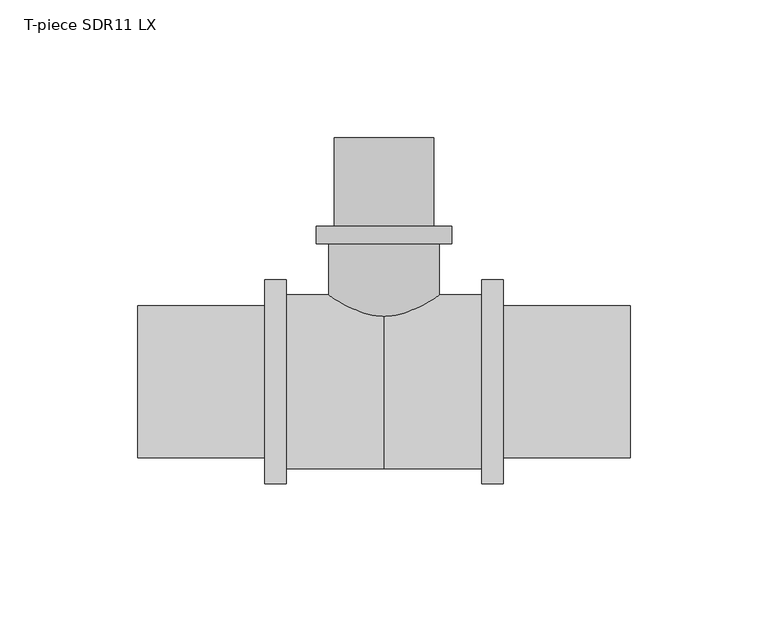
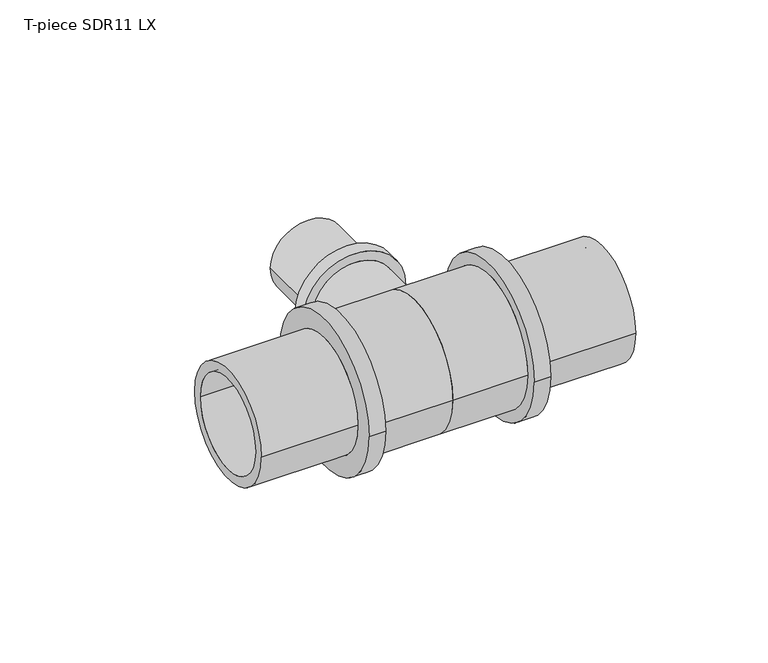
"""IFC4 building model written with IfcOpenShell, lengths in millimetres: pipe fitting geometry, T-piece SDR11 LX : T-piece LX SDR11 LX."""

import ifcopenshell
import ifcopenshell.guid

model = None  # the IFC model being written
_history = None  # IfcOwnerHistory: only IFC2X3 demands one
_inside = {}  # id of a spatial element -> (the spatial element, [elements in it])
_under = {}  # id of a project, library or spatial element -> (it, [spatial elements below it])
_declared = {}  # id of a project -> (the project, [libraries it declares])
_typed = {}  # id of a type object -> (the type object, [elements of that type])
_made_of = {}  # id of a material, layer set ... -> (it, [elements and type objects made of it])


def new_model(schema):
    """Start an empty IFC model of exactly this schema.

    Asked for "IFC4X3", IfcOpenShell would pick the latest addendum, in which some entities
    have other attributes; the version numbers below select the first issue.
    IFC2X3 requires an IfcOwnerHistory on every rooted entity: one is made here for all.
    """
    global model, _history
    if schema == "IFC4X3":
        model = ifcopenshell.file(schema_version=(4, 3, 0, 0))
    else:
        model = ifcopenshell.file(schema=schema)
    _inside.clear()
    _under.clear()
    _declared.clear()
    _typed.clear()
    _made_of.clear()
    _history = None
    if model.schema == "IFC2X3":
        org = make("IfcOrganization", Name="unknown")
        user = make(
            "IfcPersonAndOrganization",
            ThePerson=make("IfcPerson", FamilyName="unknown"),
            TheOrganization=org,
        )
        app = make(
            "IfcApplication",
            ApplicationDeveloper=org,
            Version="unknown",
            ApplicationFullName="unknown",
            ApplicationIdentifier="unknown",
        )
        _history = make(
            "IfcOwnerHistory",
            OwningUser=user,
            OwningApplication=app,
            ChangeAction="ADDED",
            CreationDate=0,
        )
    return model


def make(cls, **values):
    """One entity of the class cls with the attributes given. An attribute that is None is left unset."""
    return model.create_entity(
        cls, **{name: value for name, value in values.items() if value is not None}
    )


def rooted(cls, **values):
    """An entity with a GlobalId (a new one), such as an element, a storey or a relation."""
    return make(cls, GlobalId=ifcopenshell.guid.new(), OwnerHistory=_history, **values)


def si_unit(unit_type, name, prefix=None):
    """IfcSIUnit, for example si_unit("LENGTHUNIT", "METRE", prefix="MILLI")."""
    return make("IfcSIUnit", UnitType=unit_type, Prefix=prefix, Name=name)


def assignment(units):
    """IfcUnitAssignment: the units of a project."""
    return None if units is None else make("IfcUnitAssignment", Units=units)


def point(xyz):
    """IfcCartesianPoint."""
    return None if xyz is None else make("IfcCartesianPoint", Coordinates=xyz)


def direction(xyz):
    """IfcDirection."""
    return None if xyz is None else make("IfcDirection", DirectionRatios=xyz)


def frame(location, z_axis=None, x_axis=None):
    """IfcAxis2Placement3D, a coordinate frame: its origin and axes. An axis left out is left unset."""
    return make(
        "IfcAxis2Placement3D",
        Location=point(location),
        Axis=direction(z_axis),
        RefDirection=direction(x_axis),
    )


def origin():
    """The frame at (0, 0, 0) with its axes left unset."""
    return frame((0.0, 0.0, 0.0))


def place(relative_to, where):
    """IfcLocalPlacement: puts the frame where relative to a parent placement (None: the world)."""
    return make(
        "IfcLocalPlacement", PlacementRelTo=relative_to, RelativePlacement=where
    )


def context(
    kind, dimensions, precision=None, world=None, true_north=None, identifier=None
):
    """IfcGeometricRepresentationContext, for example the 3D "Model" context."""
    return make(
        "IfcGeometricRepresentationContext",
        ContextIdentifier=identifier,
        ContextType=kind,
        CoordinateSpaceDimension=dimensions,
        Precision=precision,
        WorldCoordinateSystem=world,
        TrueNorth=true_north,
    )


def project(units=None, contexts=None):
    """IfcProject with its units and contexts."""
    return rooted(
        "IfcProject",
        Name="project",
        RepresentationContexts=contexts,
        UnitsInContext=assignment(units),
    )


def spatial(cls, under=None, at=None, **own):
    """A site, building, storey or space (cls), placed at a placement, below another one or the project."""
    s = rooted(cls, ObjectPlacement=at, **own)
    if under is not None:
        _under.setdefault(under.id(), (under, []))[1].append(s)
    return s


def polyline(points):
    """IfcPolyline through the points."""
    return make("IfcPolyline", Points=[point(p) for p in points])


def circle_curve(where, radius):
    """IfcCircle in the frame where."""
    return make("IfcCircle", Position=where, Radius=radius)


def ellipse_curve(where, semi_axis1, semi_axis2):
    """IfcEllipse in the frame where."""
    return make(
        "IfcEllipse", Position=where, SemiAxis1=semi_axis1, SemiAxis2=semi_axis2
    )


def trimmed(basis, trim1, trim2, sense, master):
    """IfcTrimmedCurve: the piece of a basis curve between two trims."""
    return make(
        "IfcTrimmedCurve",
        BasisCurve=basis,
        Trim1=trim1,
        Trim2=trim2,
        SenseAgreement=sense,
        MasterRepresentation=master,
    )


def shape(context_of_items, identifier, shape_type, items):
    """IfcShapeRepresentation: the items that make up one representation, for example the "Body"."""
    return make(
        "IfcShapeRepresentation",
        ContextOfItems=context_of_items,
        RepresentationIdentifier=identifier,
        RepresentationType=shape_type,
        Items=items,
    )


def source(mapping_origin, context_of_items, identifier, shape_type, items):
    """IfcRepresentationMap: a shape defined once, which mapped items show again and again."""
    return make(
        "IfcRepresentationMap",
        MappingOrigin=mapping_origin,
        MappedRepresentation=shape(context_of_items, identifier, shape_type, items),
    )


def transform(
    local_origin,
    x_axis=None,
    y_axis=None,
    z_axis=None,
    scale=None,
    scale2=None,
    scale3=None,
    uniform=True,
):
    """IfcCartesianTransformationOperator3D, or its non-uniform kind. x_axis, y_axis, z_axis: its Axis1, 2, 3."""
    if uniform:
        return make(
            "IfcCartesianTransformationOperator3D",
            Axis1=direction(x_axis),
            Axis2=direction(y_axis),
            LocalOrigin=point(local_origin),
            Scale=scale,
            Axis3=direction(z_axis),
        )
    return make(
        "IfcCartesianTransformationOperator3DnonUniform",
        Axis1=direction(x_axis),
        Axis2=direction(y_axis),
        LocalOrigin=point(local_origin),
        Scale=scale,
        Axis3=direction(z_axis),
        Scale2=scale2,
        Scale3=scale3,
    )


def mapped(mapping_source, mapping_target):
    """IfcMappedItem: shows the shape of a source again, moved by a transform."""
    return make(
        "IfcMappedItem", MappingSource=mapping_source, MappingTarget=mapping_target
    )


def made_of(thing, what):
    """Note that an element or type object is made of a material, layer set ...; save() writes the relation."""
    if what is not None:
        _made_of.setdefault(what.id(), (what, []))[1].append(thing)
    return thing


def element(
    cls,
    number,
    at=None,
    inside=None,
    cuts=None,
    type_object=None,
    material=None,
    context=None,
    identifier="Body",
    shape_type=None,
    held_by="IfcProductDefinitionShape",
    body=None,
    shapes=None,
    **own,
):
    """One element of the class cls, such as IfcWall. Its Tag is "e" and its number.

    at: its placement. inside: the storey or other place that contains it. cuts: it is an
    opening in that element (IfcRelVoidsElement). A single representation is given by context,
    identifier, shape_type and body (its items); several are given by shapes. held_by: the class
    of the entity that holds the representations. save() writes the other relations.
    """
    e = rooted(cls, Tag="e%d" % number, ObjectPlacement=at, **own)
    if body is not None:
        shapes = [shape(context, identifier, shape_type, body)]
    if shapes is not None:
        e.Representation = make(held_by, Representations=shapes)
    if inside is not None:
        _inside.setdefault(inside.id(), (inside, []))[1].append(e)
    if cuts is not None:
        rooted(
            "IfcRelVoidsElement", RelatingBuildingElement=cuts, RelatedOpeningElement=e
        )
    if type_object is not None:
        _typed.setdefault(type_object.id(), (type_object, []))[1].append(e)
    return made_of(e, material)


def aggregate(whole, parts):
    """IfcRelAggregates: a whole, such as a stair, and the parts it consists of."""
    return rooted("IfcRelAggregates", RelatingObject=whole, RelatedObjects=parts)


def save(model, path):
    """Write the relations noted so far, then the file.

    IfcRelAggregates (storeys below a building ...), IfcRelContainedInSpatialStructure (elements
    in a storey), IfcRelDefinesByType, IfcRelAssociatesMaterial and IfcRelDeclares: one each for
    every whole, place, type object, material and project.
    """
    for whole, parts in _under.values():
        aggregate(whole, parts)
    for where, things in _inside.values():
        rooted(
            "IfcRelContainedInSpatialStructure",
            RelatedElements=things,
            RelatingStructure=where,
        )
    for kind, things in _typed.values():
        rooted("IfcRelDefinesByType", RelatedObjects=things, RelatingType=kind)
    for what, things in _made_of.values():
        rooted("IfcRelAssociatesMaterial", RelatedObjects=things, RelatingMaterial=what)
    for by, libraries in _declared.values():
        rooted("IfcRelDeclares", RelatingContext=by, RelatedDefinitions=libraries)
    model.write(path)


def plane_surface(at):
    """IfcPlane: the flat surface through the origin of the frame at, square to its z axis."""
    return make("IfcPlane", Position=at)


def cylinder_surface(at, radius):
    """IfcCylindricalSurface: all points at the distance radius from the z axis of the frame at."""
    return make("IfcCylindricalSurface", Position=at, Radius=radius)


def revolved_surface(curve, axis_point, axis_direction):
    """IfcSurfaceOfRevolution: the curve turned about the line through axis_point along axis_direction."""
    return make(
        "IfcSurfaceOfRevolution",
        SweptCurve=make("IfcArbitraryOpenProfileDef", ProfileType="CURVE", Curve=curve),
        AxisPosition=make("IfcAxis1Placement", Location=point(axis_point), Axis=direction(axis_direction)),
    )


def advanced_brep(points, edges, surfaces, faces):
    """IfcAdvancedBrep: a solid bounded by faces that lie on surfaces and meet in shared edges.

    An edge is (start, end): straight between two places in points (the first is 0);
    or (start, end, curve); or (start, end, curve, False) where it runs against its curve.
    A face is (place in surfaces, loops), or (place, loops, False) where it looks against
    its surface's normal. A loop lists edges by number (the first is 1), with a minus sign
    where the edge is run from its end to its start. The first loop is the outer one.
    """
    corners = [point(p) for p in points]
    vertices = [make("IfcVertexPoint", VertexGeometry=c) for c in corners]
    made = []
    for start, end, *more in edges:
        made.append(
            make(
                "IfcEdgeCurve",
                EdgeStart=vertices[start],
                EdgeEnd=vertices[end],
                EdgeGeometry=more[0] if more else make("IfcPolyline", Points=[corners[start], corners[end]]),
                SameSense=more[1] if len(more) > 1 else True,
            )
        )
    hull = []
    for where, loops, *sense in faces:
        bounds = []
        for j, loop in enumerate(loops):
            ring = [make("IfcOrientedEdge", EdgeElement=made[abs(k) - 1], Orientation=k > 0) for k in loop]
            bounds.append(
                make(
                    "IfcFaceOuterBound" if j == 0 else "IfcFaceBound",
                    Bound=make("IfcEdgeLoop", EdgeList=ring),
                    Orientation=True,
                )
            )
        hull.append(make("IfcAdvancedFace", Bounds=bounds, FaceSurface=surfaces[where], SameSense=sense[0] if sense else True))
    return make("IfcAdvancedBrep", Outer=make("IfcClosedShell", CfsFaces=hull))


def t_piece_sdr11_lx_51ccf36a(model_context):
    return source(origin(), model_context, "Body", "AdvancedBrep", [
        advanced_brep(
        [(20.0, 1.6236803, 0.0), (-20.0, 1.6236803, 0.0), (-20.0, 50.0, 0.0), (20.0, 50.0, 0.0), (13.75, 88.5, 0.0), (-13.75, 88.5, 0.0), (-13.75, 0.0, 0.0), (13.75, 0.0, 0.0), (18.0, 56.5, 0.0), (-18.0, 56.5, 0.0), (-18.0, 88.5, 0.0), (18.0, 88.5, 0.0), (24.5, 50.0, 0.0), (-24.5, 50.0, 0.0), (-24.5, 56.5, 0.0), (24.5, 56.5, 0.0)],
        [
            (0, 1, circle_curve(frame((0.0, 1.6236803, 0.0), z_axis=(0.0, 1.0, 0.0), x_axis=(-1.0, 0.0, 0.0)), 20.0)),
            (1, 2),
            (2, 3, circle_curve(frame((0.0, 50.0, 0.0), z_axis=(0.0, -1.0, 0.0), x_axis=(-1.0, 0.0, 0.0)), 20.0)),
            (3, 0),
            (4, 5, circle_curve(frame((0.0, 88.5, 0.0), z_axis=(0.0, 1.0, 0.0), x_axis=(-1.0, 0.0, 0.0)), 13.75)),
            (5, 6),
            (6, 7, circle_curve(frame((0.0, 0.0, 0.0), z_axis=(0.0, -1.0, 0.0), x_axis=(-1.0, 0.0, 0.0)), 13.75)),
            (7, 4),
            (8, 9, circle_curve(frame((0.0, 56.5, 0.0), z_axis=(0.0, 1.0, 0.0), x_axis=(-1.0, 0.0, 0.0)), 18.0)),
            (9, 10),
            (10, 11, circle_curve(frame((0.0, 88.5, 0.0), z_axis=(0.0, -1.0, 0.0), x_axis=(-1.0, 0.0, 0.0)), 18.0)),
            (11, 8),
            (12, 13, circle_curve(frame((0.0, 50.0, 0.0), z_axis=(0.0, 1.0, 0.0), x_axis=(-1.0, 0.0, 0.0)), 24.5)),
            (13, 14),
            (14, 15, circle_curve(frame((0.0, 56.5, 0.0), z_axis=(0.0, -1.0, 0.0), x_axis=(-1.0, 0.0, 0.0)), 24.5)),
            (15, 12),
            (12, 13, circle_curve(frame((0.0, 50.0, 0.0), z_axis=(0.0, -1.0, 0.0), x_axis=(1.0, 0.0, 0.0)), 24.5)),
            (2, 3, circle_curve(frame((0.0, 50.0, 0.0), z_axis=(0.0, 1.0, 0.0), x_axis=(1.0, 0.0, 0.0)), 20.0)),
            (1, 0, circle_curve(frame((0.0, 1.6236803, 0.0), z_axis=(0.0, 1.0, 0.0), x_axis=(1.0, 0.0, 0.0)), 20.0)),
            (5, 4, circle_curve(frame((0.0, 88.5, 0.0), z_axis=(0.0, 1.0, 0.0), x_axis=(1.0, 0.0, 0.0)), 13.75)),
            (7, 6, circle_curve(frame((0.0, 0.0, 0.0), z_axis=(0.0, -1.0, 0.0), x_axis=(1.0, 0.0, 0.0)), 13.75)),
            (10, 11, circle_curve(frame((0.0, 88.5, 0.0), z_axis=(0.0, 1.0, 0.0), x_axis=(1.0, 0.0, 0.0)), 18.0)),
            (9, 8, circle_curve(frame((0.0, 56.5, 0.0), z_axis=(0.0, 1.0, 0.0), x_axis=(1.0, 0.0, 0.0)), 18.0)),
            (14, 15, circle_curve(frame((0.0, 56.5, 0.0), z_axis=(0.0, 1.0, 0.0), x_axis=(1.0, 0.0, 0.0)), 24.5)),
            (6, 1, circle_curve(frame((-8.9962802, 31.1392381, 0.0), z_axis=(0.0, 0.0, -1.0), x_axis=(0.0, -1.0, 0.0)), 31.5)),
            (0, 7, circle_curve(frame((8.9962802, 31.1392381, 0.0), z_axis=(0.0, 0.0, -1.0), x_axis=(0.0, -1.0, 0.0)), 31.5)),
        ],
        [
            cylinder_surface(frame((0.0, 0.0, 0.0), z_axis=(0.0, -1.0, 0.0), x_axis=(-1.0, 0.0, 0.0)), 20.0),
            revolved_surface(polyline([(-13.75, 0.0, 0.0), (-13.75, 88.5, 0.0)]), (0.0, 0.0, 0.0), (0.0, -1.0, 0.0)),
            cylinder_surface(frame((0.0, 0.0, 0.0), z_axis=(0.0, -1.0, 0.0), x_axis=(-1.0, 0.0, 0.0)), 18.0),
            cylinder_surface(frame((0.0, 0.0, 0.0), z_axis=(0.0, -1.0, 0.0), x_axis=(-1.0, 0.0, 0.0)), 24.5),
            plane_surface(frame((0.0, 50.0, 0.0), z_axis=(0.0, -1.0, 0.0), x_axis=(1.0, 0.0, 0.0))),
            cylinder_surface(frame((0.0, 0.0, 0.0), z_axis=(0.0, -1.0, 0.0), x_axis=(1.0, 0.0, 0.0)), 20.0),
            revolved_surface(polyline([(13.75, 0.0, 0.0), (13.75, 88.5, 0.0)]), (0.0, 0.0, 0.0), (0.0, -1.0, 0.0)),
            plane_surface(frame((0.0, 88.5, 0.0), z_axis=(0.0, 1.0, 0.0), x_axis=(1.0, 0.0, 0.0))),
            cylinder_surface(frame((0.0, 0.0, 0.0), z_axis=(0.0, -1.0, 0.0), x_axis=(1.0, 0.0, 0.0)), 18.0),
            plane_surface(frame((0.0, 56.5, 0.0), z_axis=(0.0, 1.0, 0.0), x_axis=(1.0, 0.0, 0.0))),
            cylinder_surface(frame((0.0, 0.0, 0.0), z_axis=(0.0, -1.0, 0.0), x_axis=(1.0, 0.0, 0.0)), 24.5),
            revolved_surface(trimmed(ellipse_curve(frame((-8.9962802, 31.1392381, 0.0), z_axis=(0.0, 0.0, 1.0), x_axis=(0.0, -1.0, 0.0)), 31.5, 31.5), [point((-20.0, 1.6236803, 0.0))], [point((-13.75, 0.0, 0.0))], True, "CARTESIAN"), (0.0, 0.0, 0.0), (0.0, -1.0, 0.0)),
            revolved_surface(trimmed(ellipse_curve(frame((8.9962802, 31.1392381, 0.0), z_axis=(0.0, 0.0, -1.0), x_axis=(0.0, -1.0, 0.0)), 31.5, 31.5), [point((20.0, 1.6236803, 0.0))], [point((13.75, 0.0, 0.0))], True, "CARTESIAN"), (0.0, 0.0, 0.0), (0.0, -1.0, 0.0)),
        ],
        [
            (0, [[1, 2, 3, 4]]),
            (1, [[5, 6, 7, 8]]),
            (2, [[9, 10, 11, 12]]),
            (3, [[13, 14, 15, 16]]),
            (4, [[17, -13], [18, -3]]),
            (5, [[19, -4, -18, -2]]),
            (6, [[20, -8, 21, -6]]),
            (7, [[22, -11], [-20, -5]]),
            (8, [[23, -12, -22, -10]]),
            (9, [[24, -15], [-23, -9]]),
            (10, [[-17, -16, -24, -14]]),
            (11, [[-7, 25, -1, 26]]),
            (12, [[-21, -26, -19, -25]]),
        ],
    ),
        advanced_brep(
        [(35.5, 31.5, 0.0), (35.5, -31.5, 0.0), (0.0, -31.5, 0.0), (0.0, 31.5, 0.0), (0.0, 22.75, 0.0), (0.0, -22.75, 0.0), (89.3, -22.75, 0.0), (89.3, 22.75, 0.0), (89.3, 27.55, 0.0), (89.3, -27.55, 0.0), (43.3, -27.55, 0.0), (43.3, 27.55, 0.0), (43.3, 37.0, 0.0), (43.3, -37.0, 0.0), (35.5, -37.0, 0.0), (35.5, 37.0, 0.0)],
        [
            (0, 1, circle_curve(frame((35.5, 0.0, 0.0), z_axis=(-1.0, 0.0, 0.0), x_axis=(0.0, -1.0, 0.0)), 31.5)),
            (1, 2),
            (2, 3, circle_curve(frame((0.0, 0.0, 0.0), z_axis=(1.0, 0.0, 0.0), x_axis=(0.0, -1.0, 0.0)), 31.5)),
            (3, 0),
            (4, 5, circle_curve(frame((0.0, 0.0, 0.0), z_axis=(-1.0, 0.0, 0.0), x_axis=(0.0, -1.0, 0.0)), 22.75)),
            (5, 6),
            (6, 7, circle_curve(frame((89.3, 0.0, 0.0), z_axis=(1.0, 0.0, 0.0), x_axis=(0.0, -1.0, 0.0)), 22.75)),
            (7, 4),
            (8, 9, circle_curve(frame((89.3, 0.0, 0.0), z_axis=(-1.0, 0.0, 0.0), x_axis=(0.0, -1.0, 0.0)), 27.55)),
            (9, 10),
            (10, 11, circle_curve(frame((43.3, 0.0, 0.0), z_axis=(1.0, 0.0, 0.0), x_axis=(0.0, -1.0, 0.0)), 27.55)),
            (11, 8),
            (12, 13, circle_curve(frame((43.3, 0.0, 0.0), z_axis=(-1.0, 0.0, 0.0), x_axis=(0.0, -1.0, 0.0)), 37.0)),
            (13, 14),
            (14, 15, circle_curve(frame((35.5, 0.0, 0.0), z_axis=(1.0, 0.0, 0.0), x_axis=(0.0, -1.0, 0.0)), 37.0)),
            (15, 12),
            (14, 15, circle_curve(frame((35.5, 0.0, 0.0), z_axis=(-1.0, 0.0, 0.0), x_axis=(0.0, 1.0, 0.0)), 37.0)),
            (0, 1, circle_curve(frame((35.5, 0.0, 0.0), z_axis=(1.0, 0.0, 0.0), x_axis=(0.0, 1.0, 0.0)), 31.5)),
            (3, 2, circle_curve(frame((0.0, 0.0, 0.0), z_axis=(1.0, 0.0, 0.0), x_axis=(0.0, 1.0, 0.0)), 31.5)),
            (4, 5, circle_curve(frame((0.0, 0.0, 0.0), z_axis=(1.0, 0.0, 0.0), x_axis=(0.0, 1.0, 0.0)), 22.75)),
            (7, 6, circle_curve(frame((89.3, 0.0, 0.0), z_axis=(1.0, 0.0, 0.0), x_axis=(0.0, 1.0, 0.0)), 22.75)),
            (8, 9, circle_curve(frame((89.3, 0.0, 0.0), z_axis=(1.0, 0.0, 0.0), x_axis=(0.0, 1.0, 0.0)), 27.55)),
            (11, 10, circle_curve(frame((43.3, 0.0, 0.0), z_axis=(1.0, 0.0, 0.0), x_axis=(0.0, 1.0, 0.0)), 27.55)),
            (12, 13, circle_curve(frame((43.3, 0.0, 0.0), z_axis=(1.0, 0.0, 0.0), x_axis=(0.0, 1.0, 0.0)), 37.0)),
        ],
        [
            cylinder_surface(frame((0.0, 0.0, 0.0), z_axis=(1.0, 0.0, 0.0), x_axis=(0.0, -1.0, 0.0)), 31.5),
            revolved_surface(polyline([(89.3, -22.75, 0.0), (0.0, -22.75, 0.0)]), (0.0, 0.0, 0.0), (1.0, 0.0, 0.0)),
            cylinder_surface(frame((0.0, 0.0, 0.0), z_axis=(1.0, 0.0, 0.0), x_axis=(0.0, -1.0, 0.0)), 27.55),
            cylinder_surface(frame((0.0, 0.0, 0.0), z_axis=(1.0, 0.0, 0.0), x_axis=(0.0, -1.0, 0.0)), 37.0),
            plane_surface(frame((35.5, 0.0, 0.0), z_axis=(-1.0, 0.0, 0.0), x_axis=(0.0, 1.0, 0.0))),
            cylinder_surface(frame((0.0, 0.0, 0.0), z_axis=(1.0, 0.0, 0.0), x_axis=(0.0, 1.0, 0.0)), 31.5),
            plane_surface(frame((0.0, 0.0, 0.0), z_axis=(-1.0, 0.0, 0.0), x_axis=(0.0, 1.0, 0.0))),
            revolved_surface(polyline([(89.3, 22.75, 0.0), (0.0, 22.75, 0.0)]), (0.0, 0.0, 0.0), (1.0, 0.0, 0.0)),
            plane_surface(frame((89.3, 0.0, 0.0), z_axis=(1.0, 0.0, 0.0), x_axis=(0.0, 1.0, 0.0))),
            cylinder_surface(frame((0.0, 0.0, 0.0), z_axis=(1.0, 0.0, 0.0), x_axis=(0.0, 1.0, 0.0)), 27.55),
            plane_surface(frame((43.3, 0.0, 0.0), z_axis=(1.0, 0.0, 0.0), x_axis=(0.0, 1.0, 0.0))),
            cylinder_surface(frame((0.0, 0.0, 0.0), z_axis=(1.0, 0.0, 0.0), x_axis=(0.0, 1.0, 0.0)), 37.0),
        ],
        [
            (0, [[1, 2, 3, 4]]),
            (1, [[5, 6, 7, 8]]),
            (2, [[9, 10, 11, 12]]),
            (3, [[13, 14, 15, 16]]),
            (4, [[17, -15], [18, -1]]),
            (5, [[-18, -4, 19, -2]]),
            (6, [[-19, -3], [20, -5]]),
            (7, [[-20, -8, 21, -6]]),
            (8, [[22, -9], [-21, -7]]),
            (9, [[-22, -12, 23, -10]]),
            (10, [[24, -13], [-23, -11]]),
            (11, [[-24, -16, -17, -14]]),
        ],
    ),
        advanced_brep(
        [(0.0, 31.5, 0.0), (0.0, -31.5, 0.0), (-35.5, -31.5, 0.0), (-35.5, 31.5, 0.0), (-89.3, 22.75, 0.0), (-89.3, -22.75, 0.0), (0.0, -22.75, 0.0), (0.0, 22.75, 0.0), (-43.3, 27.55, 0.0), (-43.3, -27.55, 0.0), (-89.3, -27.55, 0.0), (-89.3, 27.55, 0.0), (-35.5, 37.0, 0.0), (-35.5, -37.0, 0.0), (-43.3, -37.0, 0.0), (-43.3, 37.0, 0.0)],
        [
            (0, 1, circle_curve(frame((0.0, 0.0, 0.0), z_axis=(-1.0, 0.0, 0.0), x_axis=(0.0, -1.0, 0.0)), 31.5)),
            (1, 2),
            (2, 3, circle_curve(frame((-35.5, 0.0, 0.0), z_axis=(1.0, 0.0, 0.0), x_axis=(0.0, -1.0, 0.0)), 31.5)),
            (3, 0),
            (4, 5, circle_curve(frame((-89.3, 0.0, 0.0), z_axis=(-1.0, 0.0, 0.0), x_axis=(0.0, -1.0, 0.0)), 22.75)),
            (5, 6),
            (6, 7, circle_curve(frame((0.0, 0.0, 0.0), z_axis=(1.0, 0.0, 0.0), x_axis=(0.0, -1.0, 0.0)), 22.75)),
            (7, 4),
            (8, 9, circle_curve(frame((-43.3, 0.0, 0.0), z_axis=(-1.0, 0.0, 0.0), x_axis=(0.0, -1.0, 0.0)), 27.55)),
            (9, 10),
            (10, 11, circle_curve(frame((-89.3, 0.0, 0.0), z_axis=(1.0, 0.0, 0.0), x_axis=(0.0, -1.0, 0.0)), 27.55)),
            (11, 8),
            (12, 13, circle_curve(frame((-35.5, 0.0, 0.0), z_axis=(-1.0, 0.0, 0.0), x_axis=(0.0, -1.0, 0.0)), 37.0)),
            (13, 14),
            (14, 15, circle_curve(frame((-43.3, 0.0, 0.0), z_axis=(1.0, 0.0, 0.0), x_axis=(0.0, -1.0, 0.0)), 37.0)),
            (15, 12),
            (12, 13, circle_curve(frame((-35.5, 0.0, 0.0), z_axis=(1.0, 0.0, 0.0), x_axis=(0.0, 1.0, 0.0)), 37.0)),
            (2, 3, circle_curve(frame((-35.5, 0.0, 0.0), z_axis=(-1.0, 0.0, 0.0), x_axis=(0.0, 1.0, 0.0)), 31.5)),
            (1, 0, circle_curve(frame((0.0, 0.0, 0.0), z_axis=(-1.0, 0.0, 0.0), x_axis=(0.0, 1.0, 0.0)), 31.5)),
            (6, 7, circle_curve(frame((0.0, 0.0, 0.0), z_axis=(-1.0, 0.0, 0.0), x_axis=(0.0, 1.0, 0.0)), 22.75)),
            (5, 4, circle_curve(frame((-89.3, 0.0, 0.0), z_axis=(-1.0, 0.0, 0.0), x_axis=(0.0, 1.0, 0.0)), 22.75)),
            (10, 11, circle_curve(frame((-89.3, 0.0, 0.0), z_axis=(-1.0, 0.0, 0.0), x_axis=(0.0, 1.0, 0.0)), 27.55)),
            (9, 8, circle_curve(frame((-43.3, 0.0, 0.0), z_axis=(-1.0, 0.0, 0.0), x_axis=(0.0, 1.0, 0.0)), 27.55)),
            (14, 15, circle_curve(frame((-43.3, 0.0, 0.0), z_axis=(-1.0, 0.0, 0.0), x_axis=(0.0, 1.0, 0.0)), 37.0)),
        ],
        [
            cylinder_surface(frame((0.0, 0.0, 0.0), z_axis=(1.0, 0.0, 0.0), x_axis=(0.0, -1.0, 0.0)), 31.5),
            revolved_surface(polyline([(0.0, -22.75, 0.0), (-89.3, -22.75, 0.0)]), (0.0, 0.0, 0.0), (1.0, 0.0, 0.0)),
            cylinder_surface(frame((0.0, 0.0, 0.0), z_axis=(1.0, 0.0, 0.0), x_axis=(0.0, -1.0, 0.0)), 27.55),
            cylinder_surface(frame((0.0, 0.0, 0.0), z_axis=(1.0, 0.0, 0.0), x_axis=(0.0, -1.0, 0.0)), 37.0),
            plane_surface(frame((-35.5, 0.0, 0.0), z_axis=(1.0, 0.0, 0.0), x_axis=(0.0, 1.0, 0.0))),
            cylinder_surface(frame((0.0, 0.0, 0.0), z_axis=(1.0, 0.0, 0.0), x_axis=(0.0, 1.0, 0.0)), 31.5),
            plane_surface(frame((0.0, 0.0, 0.0), z_axis=(1.0, 0.0, 0.0), x_axis=(0.0, 1.0, 0.0))),
            revolved_surface(polyline([(0.0, 22.75, 0.0), (-89.3, 22.75, 0.0)]), (0.0, 0.0, 0.0), (1.0, 0.0, 0.0)),
            plane_surface(frame((-89.3, 0.0, 0.0), z_axis=(-1.0, 0.0, 0.0), x_axis=(0.0, 1.0, 0.0))),
            cylinder_surface(frame((0.0, 0.0, 0.0), z_axis=(1.0, 0.0, 0.0), x_axis=(0.0, 1.0, 0.0)), 27.55),
            plane_surface(frame((-43.3, 0.0, 0.0), z_axis=(-1.0, 0.0, 0.0), x_axis=(0.0, 1.0, 0.0))),
            cylinder_surface(frame((0.0, 0.0, 0.0), z_axis=(1.0, 0.0, 0.0), x_axis=(0.0, 1.0, 0.0)), 37.0),
        ],
        [
            (0, [[1, 2, 3, 4]]),
            (1, [[5, 6, 7, 8]]),
            (2, [[9, 10, 11, 12]]),
            (3, [[13, 14, 15, 16]]),
            (4, [[17, -13], [18, -3]]),
            (5, [[19, -4, -18, -2]]),
            (6, [[-19, -1], [20, -7]]),
            (7, [[21, -8, -20, -6]]),
            (8, [[22, -11], [-21, -5]]),
            (9, [[23, -12, -22, -10]]),
            (10, [[24, -15], [-23, -9]]),
            (11, [[-17, -16, -24, -14]]),
        ],
    ),
    ])


if __name__ == "__main__":
    model = new_model("IFC4")
    model_context = context("Model", 3, world=origin())
    ifc_project = project(units=[si_unit("LENGTHUNIT", "METRE", prefix="MILLI")], contexts=[model_context])
    site = spatial("IfcSite", under=ifc_project)
    building = spatial("IfcBuilding", under=site)
    placement = place(None, origin())
    t_piece_sdr11_lx_shape = t_piece_sdr11_lx_51ccf36a(model_context)
    element("IfcPipeFitting", 1, ObjectType="T-piece SDR11 LX : T-piece LX SDR11 LX", at=placement, inside=building, context=model_context, shape_type="MappedRepresentation", body=[
        mapped(t_piece_sdr11_lx_shape, transform((0.0, 0.0, 0.0), x_axis=(1.0, 0.0, 0.0), y_axis=(0.0, 1.0, 0.0), z_axis=(0.0, 0.0, 1.0))),
    ])
    save(model, "model.ifc")
